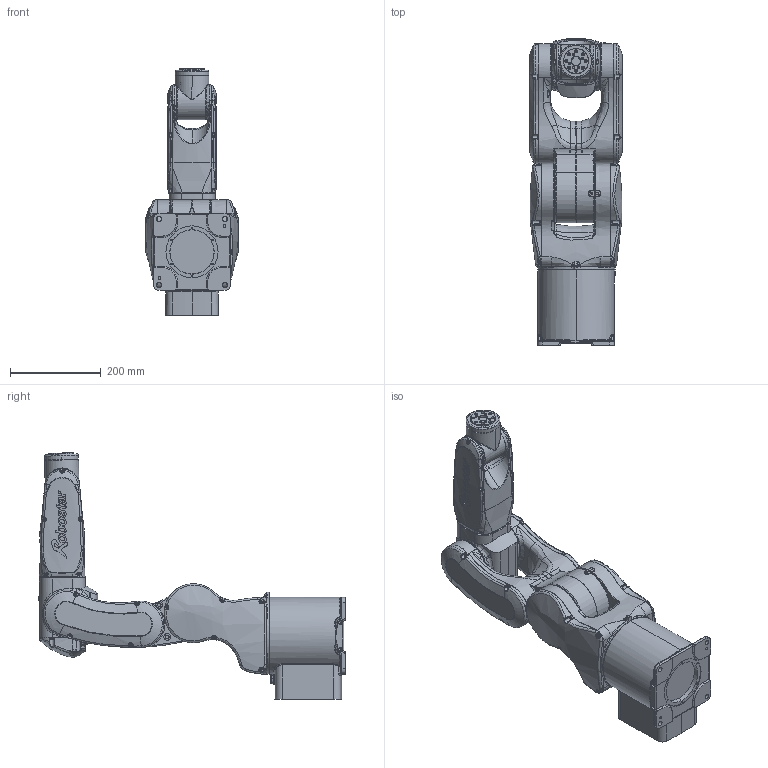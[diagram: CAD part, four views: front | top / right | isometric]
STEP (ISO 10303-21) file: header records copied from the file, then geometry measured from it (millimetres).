
FILE_DESCRIPTION (( 'STEP AP214' ), '1' );
FILE_NAME ('RA004.STEP', '2022-01-11T07:52:02', ( 'user' ), ( '' ), 'SwSTEP 2.0', 'SolidWorks 2017', '' );
FILE_SCHEMA (( 'AUTOMOTIVE_DESIGN' ));
Length unit declared in the file: millimetre
Products named in the file (22): V06-L2A01-00[VER_6_J2_FRAME_ASM]_1_1; V06-L3C01-01[VER_6_J3_FRMAE]1_1; V06-L5A01-00[VER_6_J5_FRAME_ASM]_1; V06-L0C01-00[BASE_FRAME]_1_1_1; J4_FRAME_COVER_11_1; V06-L0A01-00[VER_6_BASE FRAME_ASM]_1_1; V06-L3A01-00[VER_6_J3_FRAME_ASM]_1; V06-L4C01-03[VER_6_J4_FRAME]2_1; V06-L2C01-01[J2_FRAME_Left]_11_1; V06-L1A01-00[VER_6_J1_FRAME_ASM]_1_1; V06-L2C02-01[J2_FRAME_Right]_11_1; VER_6_J2_FRAME_1_1; V06-L3C02-00[J3_FRMAE_COVER]_1_1; V06-L1C03-00[J1_FRAME_SIDE_COVER_R]_1_1_2_1_1_1; RA004; V06-L1C01-01[VER_6_J1_FRAME]_1_1_2_1_1_1; V06-L1C02-00[J1_FRAME_SIDE_COVER_L]_1_1_2_1_1_1; Robostar_Logo; V06-L2C03-00[J2_FRAME_SIDE_COVER]_11_1; V06-L4A01-00[VER_6_J4_FRAME_ASM]_1_1; V06-L5C01-02[VER_6_J5_FRAME]_2_1; V06-L5M03-00[VER_6_J6_ENDEFFECTOR]_1
Assembly tree (24 placements, depth 4):
  RA004
    V06-L0A01-00[VER_6_BASE FRAME_ASM]_1_1
      V06-L0C01-00[BASE_FRAME]_1_1_1
    V06-L1A01-00[VER_6_J1_FRAME_ASM]_1_1
      V06-L1C01-01[VER_6_J1_FRAME]_1_1_2_1_1_1
      V06-L1C03-00[J1_FRAME_SIDE_COVER_R]_1_1_2_1_1_1
      V06-L1C02-00[J1_FRAME_SIDE_COVER_L]_1_1_2_1_1_1
    V06-L2A01-00[VER_6_J2_FRAME_ASM]_1_1
      VER_6_J2_FRAME_1_1
        V06-L2C01-01[J2_FRAME_Left]_11_1
        V06-L2C02-01[J2_FRAME_Right]_11_1
      V06-L2C03-00[J2_FRAME_SIDE_COVER]_11_1  x2
    V06-L3A01-00[VER_6_J3_FRAME_ASM]_1
      V06-L3C01-01[VER_6_J3_FRMAE]1_1
      V06-L3C02-00[J3_FRMAE_COVER]_1_1
    V06-L4A01-00[VER_6_J4_FRAME_ASM]_1_1
      V06-L4C01-03[VER_6_J4_FRAME]2_1
      J4_FRAME_COVER_11_1  x2
      Robostar_Logo  x2
    V06-L5A01-00[VER_6_J5_FRAME_ASM]_1
      V06-L5C01-02[VER_6_J5_FRAME]_2_1
      V06-L5M03-00[VER_6_J6_ENDEFFECTOR]_1
Bounding box: 204 x 676.53 x 544.66 mm (x, y, z)
Volume: 15629841.8 mm3; surface area: 1252591.2 mm2
Topology: 31 solids, 38 shells, 3449 faces, 8908 edges, 5489 vertices
Faces by surface type: plane 1336, bspline 1168, cylinder 783, cone 100, torus 46, sphere 16
Entity records: 168403 total; most frequent: CARTESIAN_POINT 110228, ORIENTED_EDGE 13488, DIRECTION 9839, EDGE_CURVE 6744, VERTEX_POINT 4189, AXIS2_PLACEMENT_3D 3596, EDGE_LOOP 2885, ADVANCED_FACE 2704
